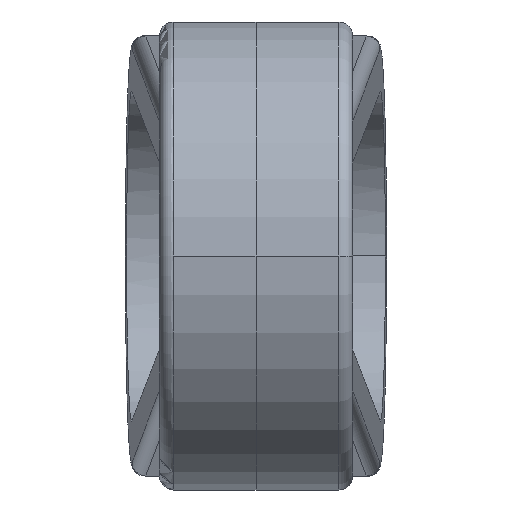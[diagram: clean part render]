
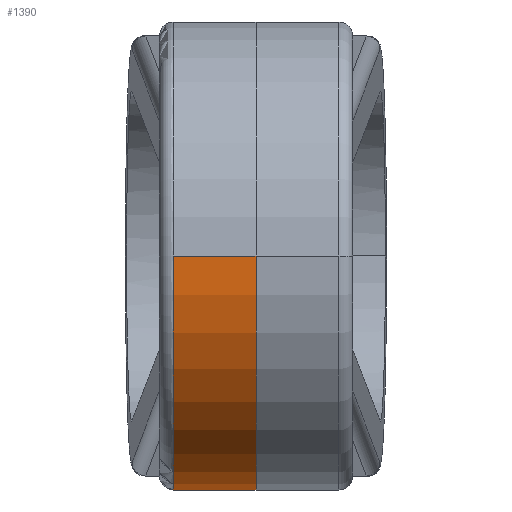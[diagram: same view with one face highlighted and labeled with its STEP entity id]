
A CAD part, left-side view. The second image highlights one B-rep face of the part: STEP entity #1390.
In plain terms, the highlighted cylindrical face has radius 17.136 mm (diameter 34.272 mm), a partial arc.
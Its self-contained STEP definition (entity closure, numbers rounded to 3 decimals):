
#1313 = VERTEX_POINT ( 'NONE', #2937 ) ;
#1321 = ORIENTED_EDGE ( 'NONE', *, *, #1322, .T. ) ;
#1322 = EDGE_CURVE ( 'NONE', #1394, #1323, #2978, .T. ) ;
#1323 = VERTEX_POINT ( 'NONE', #2974 ) ;
#1324 = ORIENTED_EDGE ( 'NONE', *, *, #1325, .T. ) ;
#1325 = EDGE_CURVE ( 'NONE', #1323, #1326, #2973, .T. ) ;
#1326 = VERTEX_POINT ( 'NONE', #2968 ) ;
#1328 = ORIENTED_EDGE ( 'NONE', *, *, #1329, .F. ) ;
#1329 = EDGE_CURVE ( 'NONE', #1313, #1326, #2962, .T. ) ;
#1390 = ADVANCED_FACE ( 'NONE', ( #3153 ), #3152, .T. ) ;
#1391 = EDGE_LOOP ( 'NONE', ( #1392, #1321, #1324, #1328 ) ) ;
#1392 = ORIENTED_EDGE ( 'NONE', *, *, #1393, .F. ) ;
#1393 = EDGE_CURVE ( 'NONE', #1394, #1313, #3151, .T. ) ;
#1394 = VERTEX_POINT ( 'NONE', #3142 ) ;
#2937 = CARTESIAN_POINT ( 'NONE',  ( -150.324, 0., -12.268 ) ) ;
#2959 = DIRECTION ( 'NONE',  ( 0., 1., 0. ) ) ;
#2960 = VECTOR ( 'NONE', #2959, 1000. ) ;
#2961 = CARTESIAN_POINT ( 'NONE',  ( -150.324, -10.08, -12.268 ) ) ;
#2962 = LINE ( 'NONE', #2961, #2960 ) ;
#2968 = CARTESIAN_POINT ( 'NONE',  ( -150.324, 6.056, -12.268 ) ) ;
#2969 = DIRECTION ( 'NONE',  ( 1., 0., 0. ) ) ;
#2970 = DIRECTION ( 'NONE',  ( 0., -1., 0. ) ) ;
#2971 = CARTESIAN_POINT ( 'NONE',  ( -162.288, 6.056, 0. ) ) ;
#2972 = AXIS2_PLACEMENT_3D ( 'NONE', #2971, #2970, #2969 ) ;
#2973 = CIRCLE ( 'NONE', #2972, 17.136 ) ;
#2974 = CARTESIAN_POINT ( 'NONE',  ( -179.424, 6.056, 0. ) ) ;
#2975 = DIRECTION ( 'NONE',  ( 0., 1., 0. ) ) ;
#2976 = VECTOR ( 'NONE', #2975, 1000. ) ;
#2977 = CARTESIAN_POINT ( 'NONE',  ( -179.424, -10.08, 0. ) ) ;
#2978 = LINE ( 'NONE', #2977, #2976 ) ;
#3142 = CARTESIAN_POINT ( 'NONE',  ( -179.424, 0., 0. ) ) ;
#3143 = DIRECTION ( 'NONE',  ( 1., 0., 0. ) ) ;
#3144 = DIRECTION ( 'NONE',  ( 0., -1., 0. ) ) ;
#3145 = CARTESIAN_POINT ( 'NONE',  ( -162.288, 0., 0. ) ) ;
#3146 = AXIS2_PLACEMENT_3D ( 'NONE', #3145, #3144, #3143 ) ;
#3147 = DIRECTION ( 'NONE',  ( -1., 0., 0. ) ) ;
#3148 = DIRECTION ( 'NONE',  ( 0., 1., 0. ) ) ;
#3149 = CARTESIAN_POINT ( 'NONE',  ( -162.288, -10.08, 0. ) ) ;
#3150 = AXIS2_PLACEMENT_3D ( 'NONE', #3149, #3148, #3147 ) ;
#3151 = CIRCLE ( 'NONE', #3146, 17.136 ) ;
#3152 = CYLINDRICAL_SURFACE ( 'NONE', #3150, 17.136 ) ;
#3153 = FACE_OUTER_BOUND ( 'NONE', #1391, .T. ) ;
